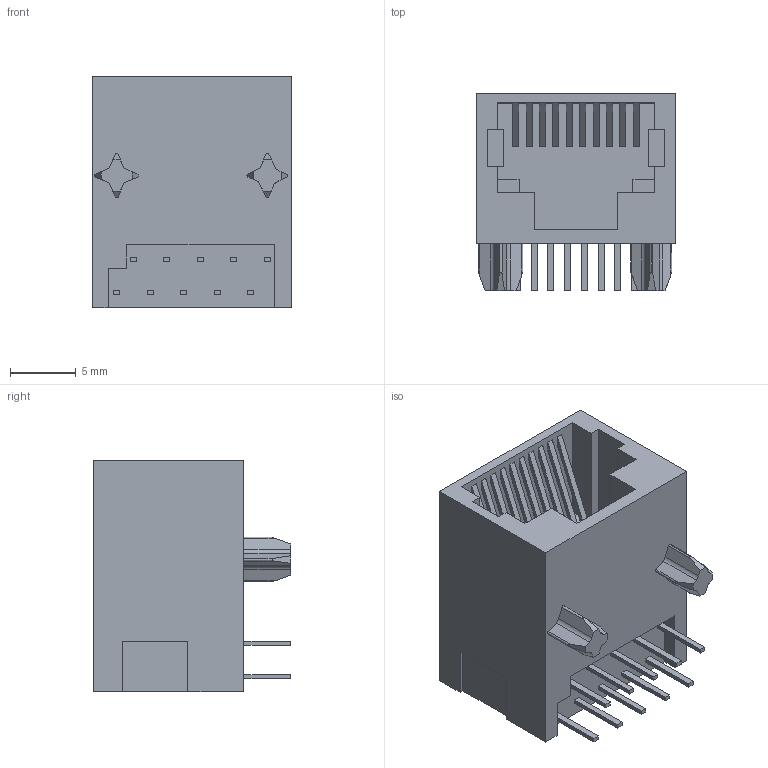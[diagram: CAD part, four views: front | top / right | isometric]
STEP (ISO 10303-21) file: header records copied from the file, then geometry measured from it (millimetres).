
FILE_DESCRIPTION (( 'STEP AP214' ), '1' );
FILE_NAME ('TJ10P10C.step', '2011-05-17T09:08:45', ( 'vpeshkov' ), ( 'licard' ), 'SwSTEP 2.0', 'SolidWorks 2009', '' );
FILE_SCHEMA (( 'AUTOMOTIVE_DESIGN' ));
Length unit declared in the file: millimetre
Products named in the file (1): TJ10P10C
Bounding box: 15.11 x 14.96 x 17.57 mm (x, y, z)
Volume: 2128 mm3; surface area: 1995.5 mm2
Topology: 1 solids, 1 shells, 181 faces, 498 edges, 332 vertices
Faces by surface type: plane 163, cylinder 18
Entity records: 6722 total; most frequent: CARTESIAN_POINT 1042, ORIENTED_EDGE 996, DIRECTION 878, EDGE_CURVE 498, VECTOR 462, LINE 462, VERTEX_POINT 332, EDGE_LOOP 214
